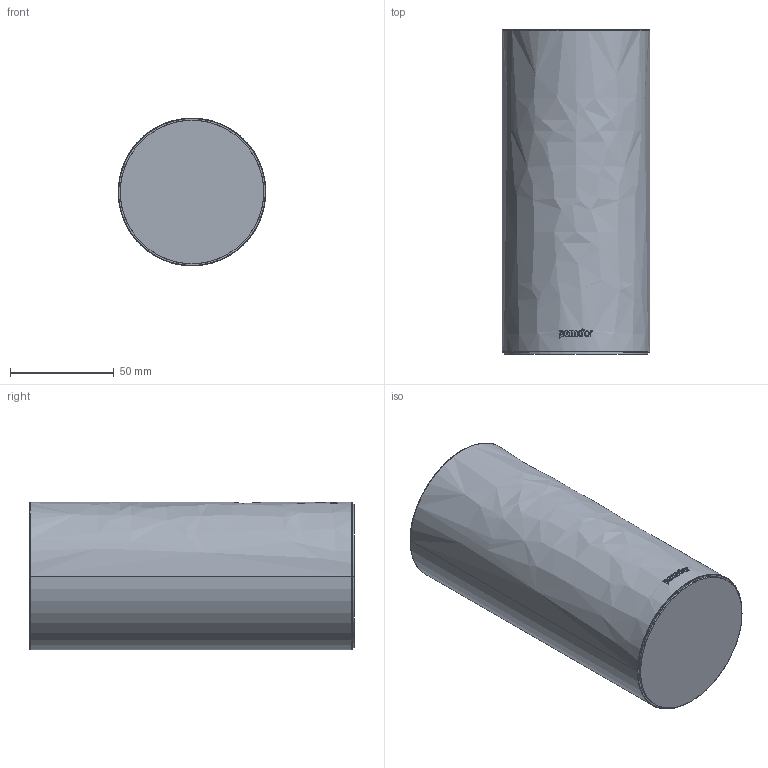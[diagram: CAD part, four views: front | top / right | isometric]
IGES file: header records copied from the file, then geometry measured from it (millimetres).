
Start section: SolidWorks IGES file using analytic representation for surfaces
Global section: file name: G:\Projects\New project\For Marketing\IGS\IGS\2015-12-11\477050002VW.IGS; native system: SolidWorks 2010; preprocessor: SolidWorks 2010; author: weijuan; date: 151210.114155; units: inch
Bounding box: 71 x 156 x 71 mm (x, y, z)
Surface area: 81826.9 mm2 (no closed solid volume)
Topology: 0 solids, 0 shells, 45 faces, 606 edges, 606 vertices
Faces by surface type: bspline 26, revolution 19
